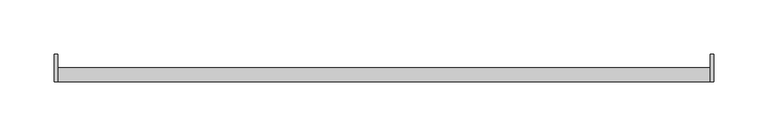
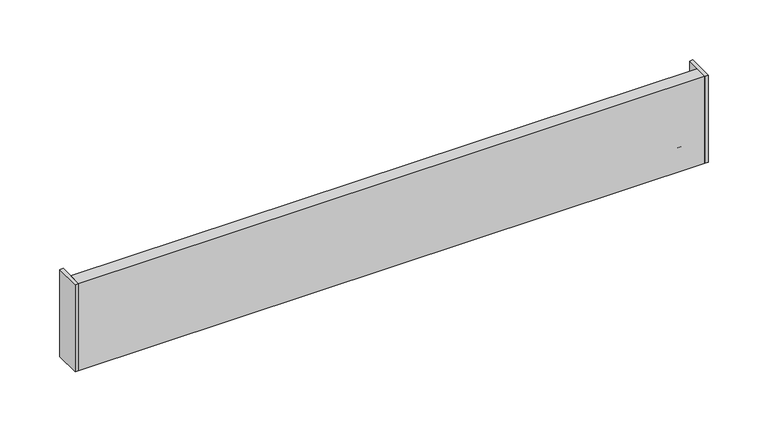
"""IFC4 building model written with IfcOpenShell, lengths in millimetres: furniture geometry."""

from ifc_helpers import new_model, si_unit, frame, origin, place, context, project, spatial, polyline, outline, extrude, source, transform, mapped, element, save


def furniture_e2b42103(model_context):
    return source(origin(), model_context, "Body", "SweptSolid", [
        extrude(outline(polyline([(-301.625, 12.6999996), (-301.625, -12.7000004), (-304.8, -12.7000004), (-304.8, 12.6999996), (-301.625, 12.6999996)])), frame((0.0, 0.0, 1066.8), z_axis=(0.0, 0.0, 1.0), x_axis=(1.0, 0.0, 0.0)), (0.0, 0.0, 1.0), 88.9),
        extrude(outline(polyline([(304.8, 12.6999996), (304.8, -12.7000004), (301.625, -12.7000004), (301.625, 12.6999996), (304.8, 12.6999996)])), frame((0.0, 0.0, 1066.8), z_axis=(0.0, 0.0, 1.0), x_axis=(1.0, 0.0, 0.0)), (0.0, 0.0, 1.0), 88.9),
        extrude(outline(polyline([(301.625, 0.0), (301.625, -12.7000004), (-301.625, -12.7000004), (-301.625, 0.0), (301.625, 0.0)])), frame((0.0, 0.0, 1066.8), z_axis=(0.0, 0.0, 1.0), x_axis=(1.0, 0.0, 0.0)), (0.0, 0.0, 1.0), 88.9),
        extrude(outline(polyline([(-12.7000004, 1142.9999966), (-12.7000004, 1155.7), (0.0, 1155.7), (0.0, 1066.8), (-12.7000004, 1066.8), (-12.7000004, 1092.1999966), (-3.1750002, 1092.1999966), (-3.1750002, 1104.8999966), (-12.7000004, 1104.8999966), (-12.7000004, 1130.2999966), (-3.1750002, 1130.2999966), (-3.1750002, 1142.9999966), (-12.7000004, 1142.9999966)])), frame((-301.625, 0.0, 0.0), z_axis=(1.0, 0.0, 0.0), x_axis=(0.0, 1.0, 0.0)), (0.0, 0.0, 1.0), 603.25),
        extrude(outline(polyline([(-12.7000004, 1155.7), (0.0, 1155.7), (0.0, 1142.9999966), (12.6999996, 1142.9999966), (12.6999996, 1079.499997), (0.0, 1079.499997), (0.0, 1066.8), (-12.7000004, 1066.8), (-12.7000004, 1155.7)])), frame((-304.8, 0.0, 0.0), z_axis=(1.0, 0.0, 0.0), x_axis=(0.0, 1.0, 0.0)), (0.0, 0.0, 1.0), 3.175),
        extrude(outline(polyline([(-12.7000004, 1155.7), (0.0, 1155.7), (0.0, 1142.9999966), (12.6999996, 1142.9999966), (12.6999996, 1079.499997), (0.0, 1079.499997), (0.0, 1066.8), (-12.7000004, 1066.8), (-12.7000004, 1155.7)])), frame((301.625, 0.0, 0.0), z_axis=(1.0, 0.0, 0.0), x_axis=(0.0, 1.0, 0.0)), (0.0, 0.0, 1.0), 3.175),
    ])


if __name__ == "__main__":
    model = new_model("IFC4")
    model_context = context("Model", 3, world=origin())
    ifc_project = project(units=[si_unit("LENGTHUNIT", "METRE", prefix="MILLI")], contexts=[model_context])
    site = spatial("IfcSite", under=ifc_project)
    building = spatial("IfcBuilding", under=site)
    placement = place(None, origin())
    furniture_shape = furniture_e2b42103(model_context)
    element("IfcFurniture", 1, ObjectType="HermanMiller_ActionOffice_A3610_ToolBar : 4\"H x 24\"W", at=placement, inside=building, context=model_context, shape_type="MappedRepresentation", body=[
        mapped(furniture_shape, transform((0.0, 0.0, 0.0), x_axis=(1.0, 0.0, 0.0), y_axis=(0.0, 1.0, 0.0), z_axis=(0.0, 0.0, 1.0))),
    ])
    save(model, "model.ifc")
